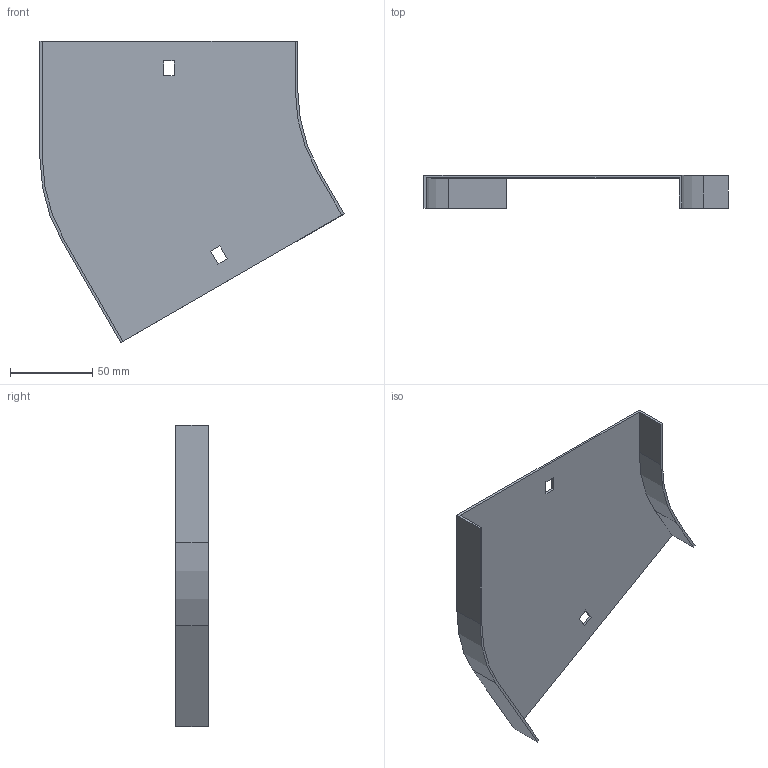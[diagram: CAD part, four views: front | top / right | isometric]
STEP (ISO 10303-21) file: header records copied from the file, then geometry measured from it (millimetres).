
FILE_DESCRIPTION (( 'STEP AP214' ), '1' );
FILE_NAME ('12G1P150.step', '2025-02-21T12:45:20', ( '' ), ( '' ), 'SwSTEP 2.0', 'SolidWorks 2023', '' );
FILE_SCHEMA (( 'AUTOMOTIVE_DESIGN' ));
Length unit declared in the file: millimetre
Products named in the file (1): 12G1P150
Bounding box: 185.2 x 20 x 183.73 mm (x, y, z)
Volume: 44813.2 mm3; surface area: 60886.8 mm2
Topology: 1 solids, 1 shells, 26 faces, 72 edges, 48 vertices
Faces by surface type: plane 22, cylinder 4
Entity records: 855 total; most frequent: CARTESIAN_POINT 147, ORIENTED_EDGE 144, DIRECTION 134, EDGE_CURVE 72, LINE 64, VECTOR 64, VERTEX_POINT 48, AXIS2_PLACEMENT_3D 35
